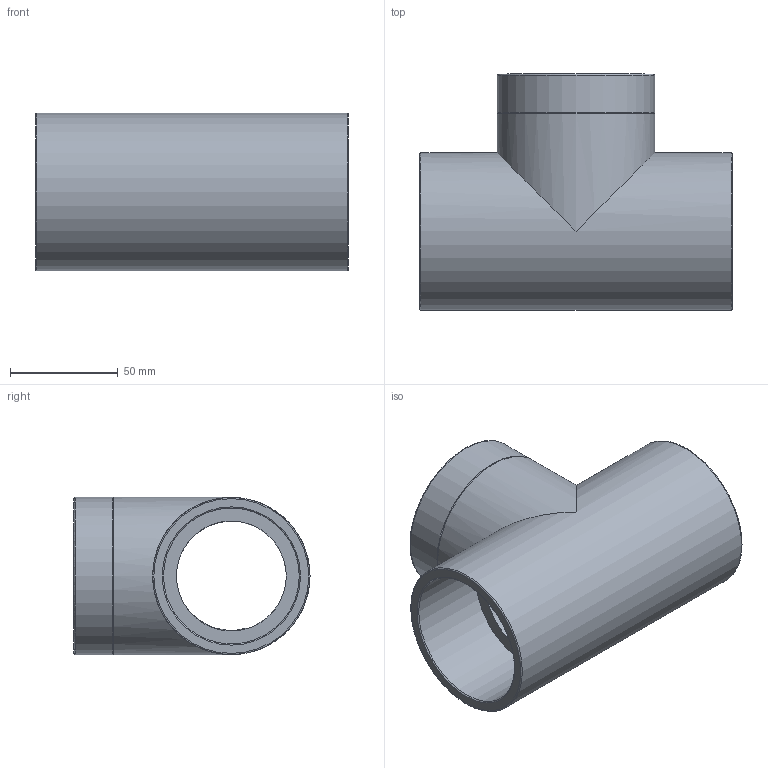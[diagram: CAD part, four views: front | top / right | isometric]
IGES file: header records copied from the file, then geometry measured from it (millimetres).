
Global section: file name: 057402063020.ipt; native system: Autodesk Inventor 2015; preprocessor: unknown; author: KIM; date: 20180927.115454; units: millimetre
Bounding box: 145 x 109.5 x 73 mm (x, y, z)
Volume: 287494.9 mm3; surface area: 78695.4 mm2
Topology: 1 solids, 1 shells, 21 faces, 59 edges, 43 vertices
Faces by surface type: revolution 10, plane 6, cylinder 3, cone 2
Full cylindrical faces by diameter (mm): 73 x3
